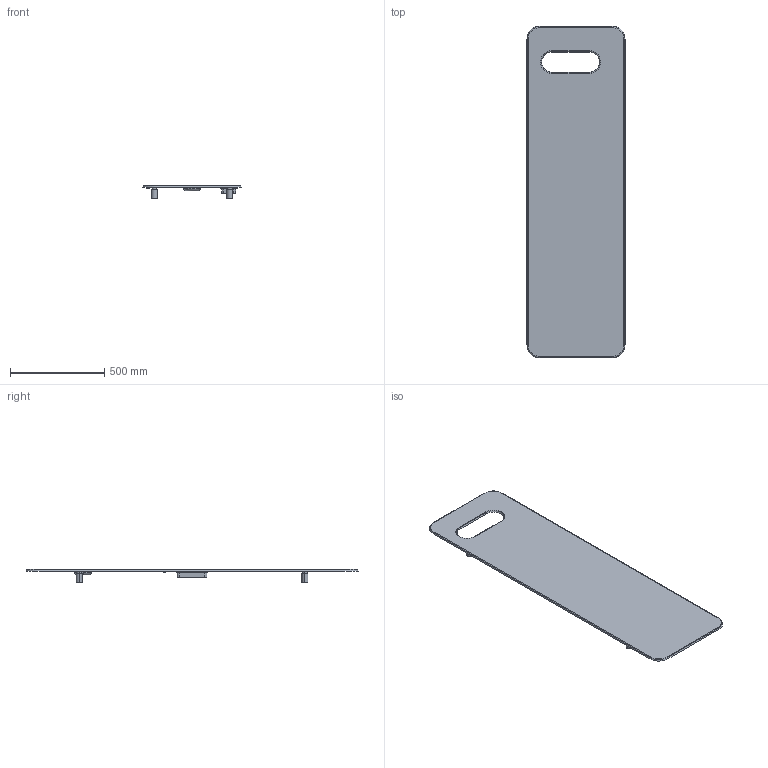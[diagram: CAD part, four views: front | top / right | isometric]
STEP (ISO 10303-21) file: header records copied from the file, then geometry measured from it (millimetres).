
FILE_DESCRIPTION((''),'2;1');
FILE_NAME('3582806100007_3D_SITO_ASM','2023-02-21T11:58:06',('PC132'),(''),'CREO PARAMETRIC BY PTC INC, 2022124','CREO PARAMETRIC BY PTC INC, 2022124','');
FILE_SCHEMA(('AUTOMOTIVE_DESIGN { 1 0 10303 214 1 1 1 1 }'));
Length unit declared in the file: millimetre
Products named in the file (2): 3582806100007_3D_SITO; 3582806100007_3D_SITO_ASM
Assembly tree (1 placements, depth 2):
  3582806100007_3D_SITO_ASM
    3582806100007_3D_SITO
Bounding box: 520.97 x 1763.97 x 70 mm (x, y, z)
Volume: 8750516.2 mm3; surface area: 1851795.6 mm2
Topology: 1 solids, 1 shells, 118 faces, 252 edges, 154 vertices
Faces by surface type: cylinder 47, plane 37, cone 22, torus 12
Entity records: 5928 total; most frequent: CARTESIAN_POINT 747, DIRECTION 692, ORIENTED_EDGE 504, PRESENTATION_STYLE_ASSIGNMENT 283, STYLED_ITEM 283, CURVE_STYLE 282, AXIS2_PLACEMENT_3D 269, EDGE_CURVE 252
